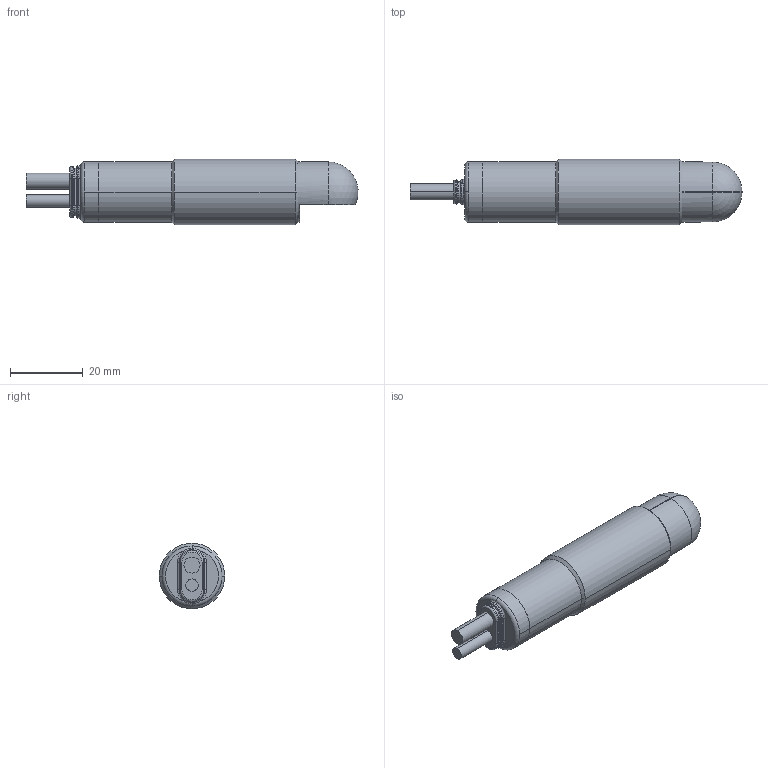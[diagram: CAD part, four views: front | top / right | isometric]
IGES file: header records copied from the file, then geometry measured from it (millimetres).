
Global section: file name: No Iges File Name specified; native system: Autodesk Inventor 2009; preprocessor: AutoDesk Inventor Iges Exporter R2009; author: Oliver Liedtke; date: 20100128.134520; units: millimetre
Bounding box: 91.18 x 18 x 18 mm (x, y, z)
Volume: 16964.1 mm3; surface area: 4732.2 mm2
Topology: 1 solids, 1 shells, 80 faces, 177 edges, 106 vertices
Faces by surface type: cylinder 22, plane 22, bspline 10, cone 8, revolution 8, torus 8, sphere 2
